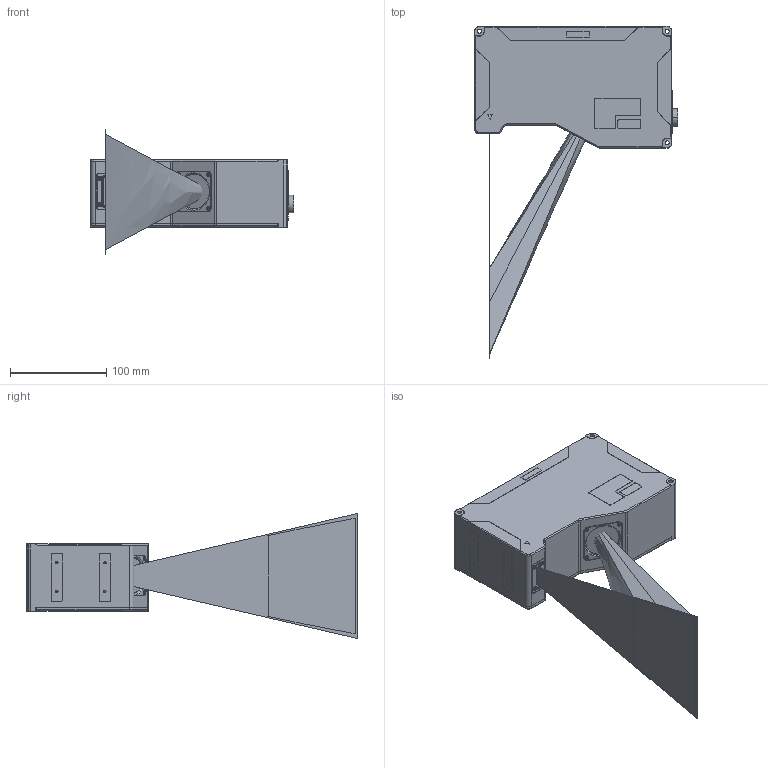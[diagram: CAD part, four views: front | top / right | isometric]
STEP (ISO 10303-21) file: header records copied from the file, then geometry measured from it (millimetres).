
FILE_DESCRIPTION (( 'STEP AP214' ), '1' );
FILE_NAME ('SR9160-01-02假蚾尨砩芞.STEP', '2024-06-24T11:27:56', ( 'Windows 蚚誧' ), ( 'Microsoft' ), 'SwSTEP 2.0', 'SolidWorks 2020', '' );
FILE_SCHEMA (( 'AUTOMOTIVE_DESIGN' ));
Length unit declared in the file: millimetre
Products named in the file (1): SR9160-01-02假蚾尨砩芞
Bounding box: 211.5 x 345 x 130 mm (x, y, z)
Volume: 2198398.7 mm3; surface area: 258706.4 mm2
Topology: 32 solids, 42 shells, 2098 faces, 5326 edges, 3336 vertices
Faces by surface type: plane 866, cylinder 591, cone 528, bspline 113
Entity records: 91940 total; most frequent: CARTESIAN_POINT 18110, DIRECTION 10566, ORIENTED_EDGE 10408, EDGE_CURVE 5204, AXIS2_PLACEMENT_3D 3783, VERTEX_POINT 3336, LINE 3000, VECTOR 3000
